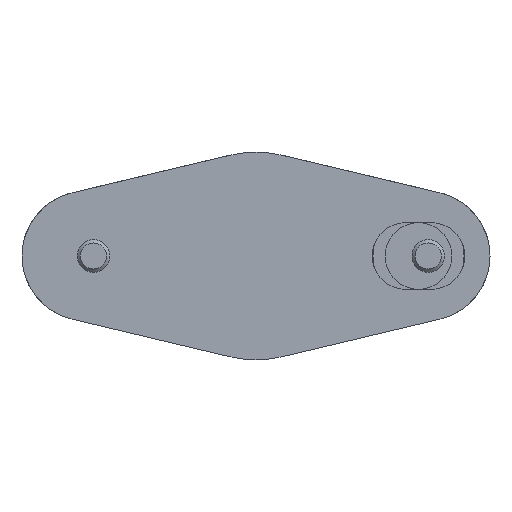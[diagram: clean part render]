
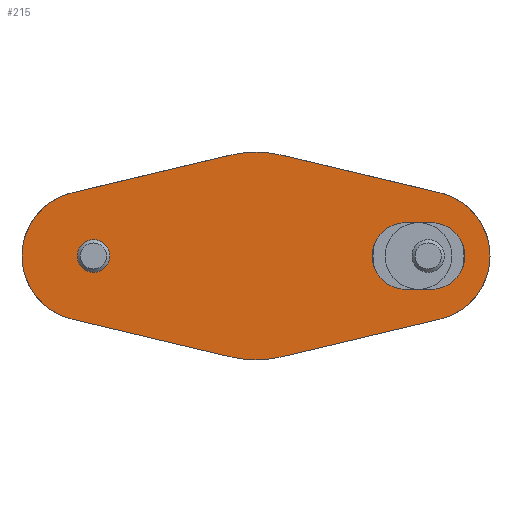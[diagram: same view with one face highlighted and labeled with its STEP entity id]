
A CAD part, front view. The second image highlights one B-rep face of the part: STEP entity #215.
In plain terms, the highlighted planar face has unit normal (0, -1, 0).
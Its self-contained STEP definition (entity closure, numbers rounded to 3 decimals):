
#215 = ADVANCED_FACE( '', ( #319, #320, #321 ), #322, .F. );
#319 = FACE_BOUND( '', #524, .T. );
#320 = FACE_BOUND( '', #525, .T. );
#321 = FACE_OUTER_BOUND( '', #526, .T. );
#322 = PLANE( '', #527 );
#524 = EDGE_LOOP( '', ( #763 ) );
#525 = EDGE_LOOP( '', ( #764, #765, #766, #767 ) );
#526 = EDGE_LOOP( '', ( #768, #769, #770, #771, #772, #773, #774, #775 ) );
#527 = AXIS2_PLACEMENT_3D( '', #776, #777, #778 );
#763 = ORIENTED_EDGE( '', *, *, #1357, .T. );
#764 = ORIENTED_EDGE( '', *, *, #1358, .T. );
#765 = ORIENTED_EDGE( '', *, *, #1359, .T. );
#766 = ORIENTED_EDGE( '', *, *, #1360, .T. );
#767 = ORIENTED_EDGE( '', *, *, #1361, .T. );
#768 = ORIENTED_EDGE( '', *, *, #1362, .F. );
#769 = ORIENTED_EDGE( '', *, *, #1363, .F. );
#770 = ORIENTED_EDGE( '', *, *, #1364, .F. );
#771 = ORIENTED_EDGE( '', *, *, #1365, .F. );
#772 = ORIENTED_EDGE( '', *, *, #1366, .F. );
#773 = ORIENTED_EDGE( '', *, *, #1367, .F. );
#774 = ORIENTED_EDGE( '', *, *, #1368, .F. );
#775 = ORIENTED_EDGE( '', *, *, #1355, .F. );
#776 = CARTESIAN_POINT( '', ( -26., 0., 0. ) );
#777 = DIRECTION( '', ( 0., 1., 0. ) );
#778 = DIRECTION( '', ( 0., 0., 1. ) );
#1355 = EDGE_CURVE( '', #1555, #1557, #1558, .T. );
#1357 = EDGE_CURVE( '', #1560, #1560, #1561, .T. );
#1358 = EDGE_CURVE( '', #1562, #1563, #1564, .T. );
#1359 = EDGE_CURVE( '', #1563, #1565, #1566, .T. );
#1360 = EDGE_CURVE( '', #1565, #1567, #1568, .T. );
#1361 = EDGE_CURVE( '', #1567, #1562, #1569, .T. );
#1362 = EDGE_CURVE( '', #1570, #1555, #1571, .T. );
#1363 = EDGE_CURVE( '', #1572, #1570, #1573, .T. );
#1364 = EDGE_CURVE( '', #1574, #1572, #1575, .T. );
#1365 = EDGE_CURVE( '', #1576, #1574, #1577, .T. );
#1366 = EDGE_CURVE( '', #1578, #1576, #1579, .T. );
#1367 = EDGE_CURVE( '', #1580, #1578, #1581, .T. );
#1368 = EDGE_CURVE( '', #1557, #1580, #1582, .T. );
#1555 = VERTEX_POINT( '', #1872 );
#1557 = VERTEX_POINT( '', #1875 );
#1558 = CIRCLE( '', #1876, 10. );
#1560 = VERTEX_POINT( '', #1879 );
#1561 = CIRCLE( '', #1880, 2.5 );
#1562 = VERTEX_POINT( '', #1881 );
#1563 = VERTEX_POINT( '', #1882 );
#1564 = LINE( '', #1883, #1884 );
#1565 = VERTEX_POINT( '', #1885 );
#1566 = CIRCLE( '', #1886, 5.125 );
#1567 = VERTEX_POINT( '', #1887 );
#1568 = LINE( '', #1888, #1889 );
#1569 = CIRCLE( '', #1890, 5.125 );
#1570 = VERTEX_POINT( '', #1891 );
#1571 = LINE( '', #1892, #1893 );
#1572 = VERTEX_POINT( '', #1894 );
#1573 = CIRCLE( '', #1895, 16. );
#1574 = VERTEX_POINT( '', #1896 );
#1575 = LINE( '', #1897, #1898 );
#1576 = VERTEX_POINT( '', #1899 );
#1577 = CIRCLE( '', #1900, 10. );
#1578 = VERTEX_POINT( '', #1901 );
#1579 = LINE( '', #1902, #1903 );
#1580 = VERTEX_POINT( '', #1904 );
#1581 = CIRCLE( '', #1905, 16. );
#1582 = LINE( '', #1906, #1907 );
#1872 = CARTESIAN_POINT( '', ( -28.308, 0., -9.73 ) );
#1875 = CARTESIAN_POINT( '', ( -28.308, 0., 9.73 ) );
#1876 = AXIS2_PLACEMENT_3D( '', #2442, #2443, #2444 );
#1879 = CARTESIAN_POINT( '', ( -22.5, 0., 0. ) );
#1880 = AXIS2_PLACEMENT_3D( '', #2446, #2447, #2448 );
#1881 = CARTESIAN_POINT( '', ( 27., 0., -5.125 ) );
#1882 = CARTESIAN_POINT( '', ( 23., 0., -5.125 ) );
#1883 = CARTESIAN_POINT( '', ( 27., 0., -5.125 ) );
#1884 = VECTOR( '', #2449, 1000. );
#1885 = CARTESIAN_POINT( '', ( 23., 0., 5.125 ) );
#1886 = AXIS2_PLACEMENT_3D( '', #2450, #2451, #2452 );
#1887 = CARTESIAN_POINT( '', ( 27., 0., 5.125 ) );
#1888 = CARTESIAN_POINT( '', ( 23., 0., 5.125 ) );
#1889 = VECTOR( '', #2453, 1000. );
#1890 = AXIS2_PLACEMENT_3D( '', #2454, #2455, #2456 );
#1891 = CARTESIAN_POINT( '', ( -3.692, 0., -15.568 ) );
#1892 = CARTESIAN_POINT( '', ( -3.692, 0., -15.568 ) );
#1893 = VECTOR( '', #2457, 1000. );
#1894 = CARTESIAN_POINT( '', ( 3.692, 0., -15.568 ) );
#1895 = AXIS2_PLACEMENT_3D( '', #2458, #2459, #2460 );
#1896 = CARTESIAN_POINT( '', ( 28.308, 0., -9.73 ) );
#1897 = CARTESIAN_POINT( '', ( 28.308, 0., -9.73 ) );
#1898 = VECTOR( '', #2461, 1000. );
#1899 = CARTESIAN_POINT( '', ( 28.308, 0., 9.73 ) );
#1900 = AXIS2_PLACEMENT_3D( '', #2462, #2463, #2464 );
#1901 = CARTESIAN_POINT( '', ( 3.692, 0., 15.568 ) );
#1902 = CARTESIAN_POINT( '', ( 3.692, 0., 15.568 ) );
#1903 = VECTOR( '', #2465, 1000. );
#1904 = CARTESIAN_POINT( '', ( -3.692, 0., 15.568 ) );
#1905 = AXIS2_PLACEMENT_3D( '', #2466, #2467, #2468 );
#1906 = CARTESIAN_POINT( '', ( -28.308, 0., 9.73 ) );
#1907 = VECTOR( '', #2469, 1000. );
#2442 = CARTESIAN_POINT( '', ( -26., 0., 0. ) );
#2443 = DIRECTION( '', ( 0., 1., 0. ) );
#2444 = DIRECTION( '', ( 1., 0., 0. ) );
#2446 = CARTESIAN_POINT( '', ( -25., 0., 0. ) );
#2447 = DIRECTION( '', ( 0., 1., 0. ) );
#2448 = DIRECTION( '', ( 1., 0., 0. ) );
#2449 = DIRECTION( '', ( -1., 0., 0. ) );
#2450 = CARTESIAN_POINT( '', ( 23., 0., 0. ) );
#2451 = DIRECTION( '', ( 0., 1., 0. ) );
#2452 = DIRECTION( '', ( 1., 0., 0. ) );
#2453 = DIRECTION( '', ( 1., 0., 0. ) );
#2454 = CARTESIAN_POINT( '', ( 27., 0., 0. ) );
#2455 = DIRECTION( '', ( 0., 1., 0. ) );
#2456 = DIRECTION( '', ( 1., 0., 0. ) );
#2457 = DIRECTION( '', ( -0.973, 0., 0.231 ) );
#2458 = CARTESIAN_POINT( '', ( 0., 0., 0. ) );
#2459 = DIRECTION( '', ( 0., 1., 0. ) );
#2460 = DIRECTION( '', ( 1., 0., 0. ) );
#2461 = DIRECTION( '', ( -0.973, 0., -0.231 ) );
#2462 = CARTESIAN_POINT( '', ( 26., 0., 0. ) );
#2463 = DIRECTION( '', ( 0., 1., 0. ) );
#2464 = DIRECTION( '', ( 1., 0., 0. ) );
#2465 = DIRECTION( '', ( 0.973, 0., -0.231 ) );
#2466 = CARTESIAN_POINT( '', ( 0., 0., 0. ) );
#2467 = DIRECTION( '', ( 0., 1., 0. ) );
#2468 = DIRECTION( '', ( 1., 0., 0. ) );
#2469 = DIRECTION( '', ( 0.973, 0., 0.231 ) );
